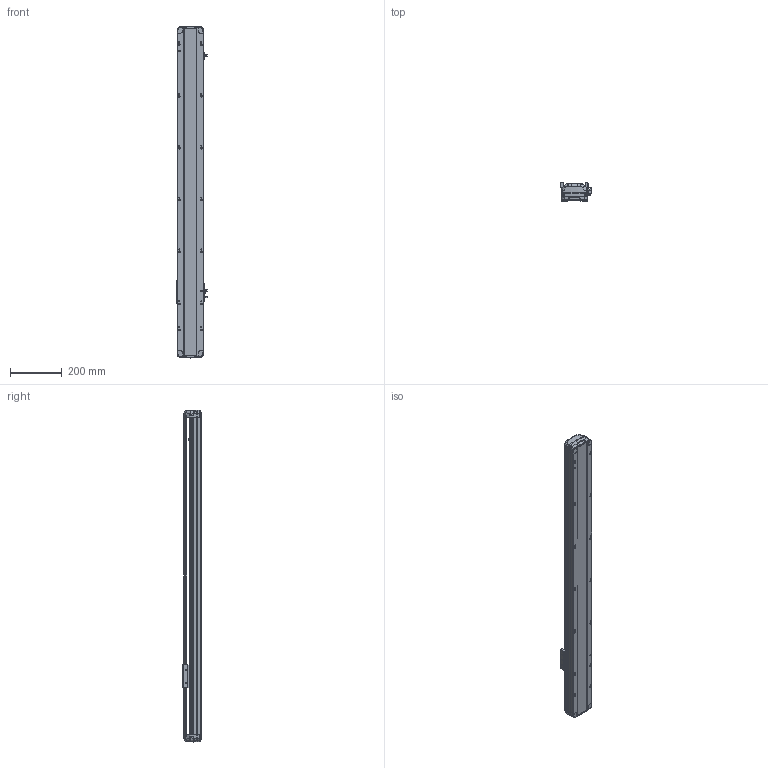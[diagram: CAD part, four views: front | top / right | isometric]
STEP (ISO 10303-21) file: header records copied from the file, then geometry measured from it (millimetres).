
FILE_DESCRIPTION (( 'STEP AP214' ), '1' );
FILE_NAME ('RTH10-XX-900-B-M10-C4.STEP', '2025-10-25T05:17:12', ( 'Microsoft' ), ( 'Microsoft' ), 'SwSTEP 2.0', 'SolidWorks 2018', '' );
FILE_SCHEMA (( 'AUTOMOTIVE_DESIGN' ));
Length unit declared in the file: millimetre
Products named in the file (7): N_RTH13-L-012覜茼え俋离^RTH10-XX-XX-B-M10-C4; N_RTH12-B-011P-臏倰第菁釱^RTH10-XX-XX-B-M10-C4; N_RTH12-GY-004-賑釱^RTH10-XX-XX-B-M10-C4; N_OMRON EE-SX672 传感器^RTH10-XX-XX-B-M10-C4; N_RTH12-GY-001P^RTH10-XX-XX-B-M10-C4; RTH10-XX-900-B-M10-C4; N_RTH12-B-007P-奻裔^RTH10-XX-XX-B-M10-C4
Assembly tree (9 placements, depth 2):
  RTH10-XX-900-B-M10-C4
    N_RTH12-B-011P-臏倰第菁釱^RTH10-XX-XX-B-M10-C4
    N_RTH13-L-012覜茼え俋离^RTH10-XX-XX-B-M10-C4
    N_OMRON EE-SX672 传感器^RTH10-XX-XX-B-M10-C4  x3
    N_RTH12-B-007P-奻裔^RTH10-XX-XX-B-M10-C4
    N_RTH12-GY-004-賑釱^RTH10-XX-XX-B-M10-C4
    N_RTH12-GY-001P^RTH10-XX-XX-B-M10-C4  x2
Bounding box: 116.5 x 70 x 1279.61 mm (x, y, z)
Volume: 4787333 mm3; surface area: 760585.3 mm2
Topology: 7 solids, 11 shells, 2220 faces, 6232 edges, 4080 vertices
Faces by surface type: plane 1057, bspline 712, cylinder 431, cone 16, torus 4
Entity records: 50348 total; most frequent: CARTESIAN_POINT 21798, ORIENTED_EDGE 6592, DIRECTION 4660, EDGE_CURVE 3302, VERTEX_POINT 2167, VECTOR 1694, LINE 1694, AXIS2_PLACEMENT_3D 1483
